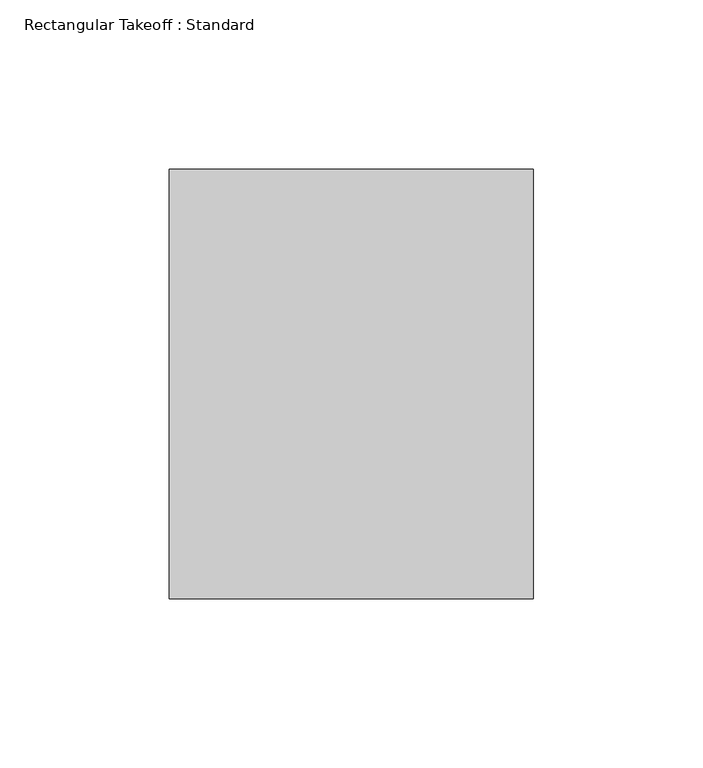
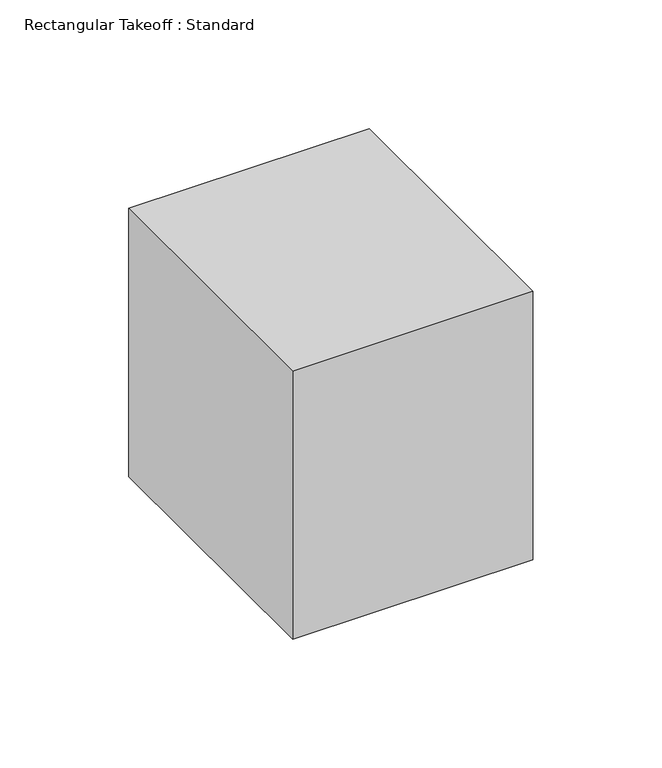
"""IFC4 building model written with IfcOpenShell, lengths in millimetres: duct fitting geometry, Rectangular Takeoff : Standard."""

from ifc_helpers import new_model, si_unit, frame, origin, place, context, project, spatial, polyline, outline, extrude, source, transform, mapped, element, save


def rectangular_takeoff_standard_69442764(model_context):
    return source(origin(), model_context, "Body", "SweptSolid", [
        extrude(outline(polyline([(-6.096, -63.5), (-6.096, 63.5), (101.6, 63.5), (101.6, -63.5), (-6.096, -63.5)])), frame((0.0, 0.0, -63.5), z_axis=(0.0, 0.0, 1.0), x_axis=(1.0, 0.0, 0.0)), (0.0, 0.0, 1.0), 127.0),
    ])


if __name__ == "__main__":
    model = new_model("IFC4")
    model_context = context("Model", 3, world=origin())
    ifc_project = project(units=[si_unit("LENGTHUNIT", "METRE", prefix="MILLI")], contexts=[model_context])
    site = spatial("IfcSite", under=ifc_project)
    building = spatial("IfcBuilding", under=site)
    placement = place(None, origin())
    rectangular_takeoff_standard_shape = rectangular_takeoff_standard_69442764(model_context)
    element("IfcDuctFitting", 1, ObjectType="Rectangular Takeoff : Standard", at=placement, inside=building, context=model_context, shape_type="MappedRepresentation", body=[
        mapped(rectangular_takeoff_standard_shape, transform((0.0, 0.0, 0.0), x_axis=(1.0, 0.0, 0.0), y_axis=(0.0, 1.0, 0.0), z_axis=(0.0, 0.0, 1.0))),
    ])
    save(model, "model.ifc")
